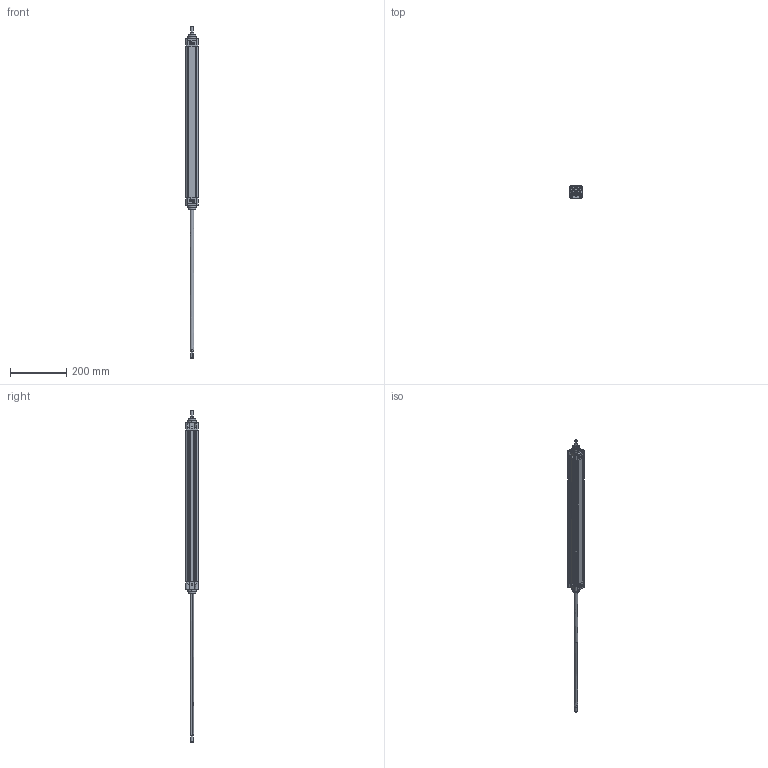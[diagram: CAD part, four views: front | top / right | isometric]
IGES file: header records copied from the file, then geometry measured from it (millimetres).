
Start section: SolidWorks IGES file using analytic representation for surfaces
Global section: file name: D:\ARICA 3D 禽Z軲LER\3D IGES\KDNC 禽FT M軱L輁KDNC32\KDNC32X500CIFTMILLI-CYLINDER.IGS; native system: SolidWorks 2013; preprocessor: SolidWorks 2013; author: user; date: 150317.140915; units: millimetre
Bounding box: 44.45 x 44.65 x 1185 mm (x, y, z)
Surface area: 312953.5 mm2 (no closed solid volume)
Topology: 0 solids, 0 shells, 805 faces, 11094 edges, 11046 vertices
Faces by surface type: revolution 420, bspline 385
